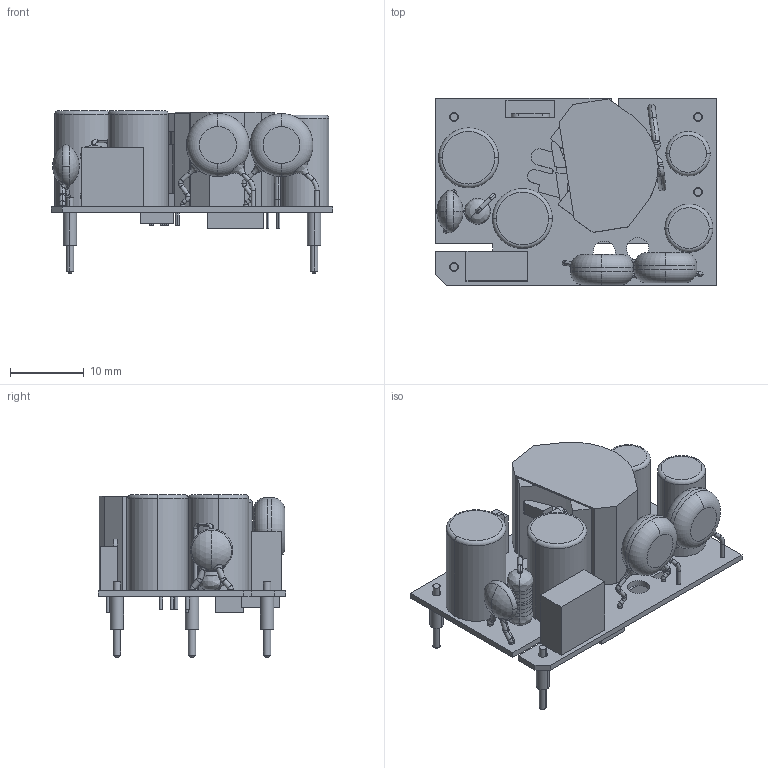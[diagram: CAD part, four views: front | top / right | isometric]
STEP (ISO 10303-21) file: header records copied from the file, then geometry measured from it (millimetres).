
FILE_DESCRIPTION (( 'STEP AP203' ), '1' );
FILE_NAME ('CFM12SXXX ¦¨«~¹Ï (M-B110-F)(V1.0)-1130703.STEP', '2024-08-20T00:29:24', ( 'cincon' ), ( '' ), 'SwSTEP 2.0', 'SolidWorks 2020', '' );
FILE_SCHEMA (( 'CONFIG_CONTROL_DESIGN' ));
Length unit declared in the file: millimetre
Products named in the file (7): CFM12 Axial0_4_10K-1060316; CFM12陶瓷電容示意圖 2018,10,29; CFM12S PCB(V1.4)-1110712; CFM12 電晶體示意圖 2018,10,29; CFM12SXXX 成品圖 (M-B110-F)(V1.0)-1130703; G7205030099ｶ鷄IN 2018,10,30; CFM12S變壓器示意圖-1130718
Assembly tree (9 placements, depth 2):
  CFM12SXXX 成品圖 (M-B110-F)(V1.0)-1130703
    CFM12S PCB(V1.4)-1110712
    CFM12 Axial0_4_10K-1060316
    CFM12 電晶體示意圖 2018,10,29
    CFM12陶瓷電容示意圖 2018,10,29
    G7205030099ｶ鷄IN 2018,10,30  x4
    CFM12S變壓器示意圖-1130718
Bounding box: 38.1 x 25.4 x 22 mm (x, y, z)
Volume: 6297.9 mm3; surface area: 5813.4 mm2
Topology: 14 solids, 14 shells, 432 faces, 1049 edges, 662 vertices
Faces by surface type: plane 161, cylinder 138, bspline 64, torus 57, cone 8, sphere 4
Entity records: 14750 total; most frequent: CARTESIAN_POINT 4614, DIRECTION 1980, ORIENTED_EDGE 1958, EDGE_CURVE 979, AXIS2_PLACEMENT_3D 778, VERTEX_POINT 620, EDGE_LOOP 443, CIRCLE 434
